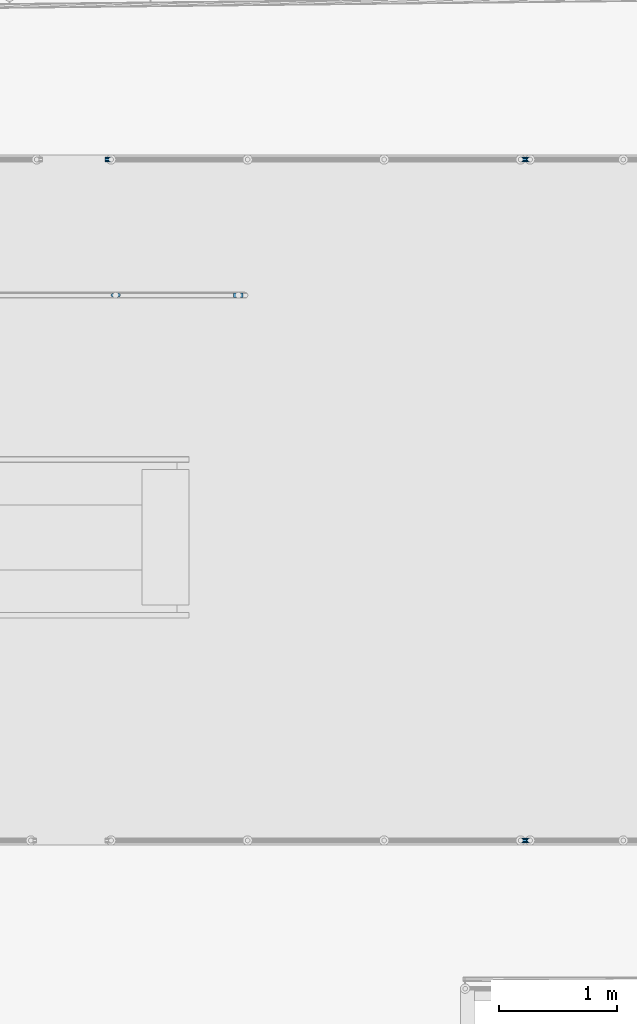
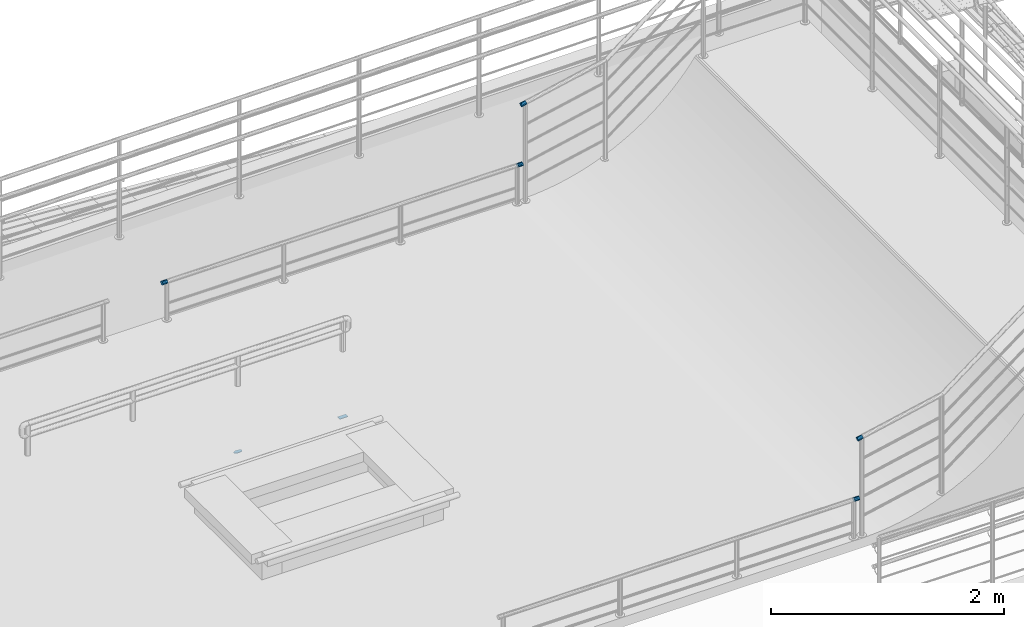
# One storey, part 142 of 237: 7 building element parts, 4 elements without a shape of their own.
"""IFC2X3 building model written with IfcOpenShell, lengths in millimetres."""

from ifc_helpers import new_model, entity, si_unit, converted_unit, derived_unit, money_unit, direction, frame, origin_with_axes, place, context, subcontext, project, spatial, faceted_brep, material, type_object, element, aggregate, save


model = new_model("IFC2X3")

# Units and contexts
model_context = context("Model", 3, precision=0.01, world=origin_with_axes(), true_north=direction((0.0, 1.0)))
body_context = subcontext(model_context, "Body", "Model", "MODEL_VIEW")
ifc_project = project(units=[si_unit("LENGTHUNIT", "METRE", prefix="MILLI"), si_unit("AREAUNIT", "SQUARE_METRE"), si_unit("VOLUMEUNIT", "CUBIC_METRE"), converted_unit("PLANEANGLEUNIT", "DEGREE", entity("IfcPlaneAngleMeasure", 0.0174532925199), si_unit("PLANEANGLEUNIT", "RADIAN"), dimensions=[0, 0, 0, 0, 0, 0, 0]), money_unit("USD"), converted_unit("TIMEUNIT", "Year", entity("IfcTimeMeasure", 31556926.0), si_unit("TIMEUNIT", "SECOND"), dimensions=[0, 0, 1, 0, 0, 0, 0]), si_unit("MASSUNIT", "GRAM", prefix="KILO"), si_unit("THERMODYNAMICTEMPERATUREUNIT", "DEGREE_CELSIUS"), si_unit("LUMINOUSINTENSITYUNIT", "LUMEN"), si_unit("ENERGYUNIT", "JOULE", prefix="MEGA"), derived_unit("THERMALCONDUCTANCEUNIT", [(si_unit("POWERUNIT", "WATT"), 1), (si_unit("LENGTHUNIT", "METRE"), -1), (si_unit("THERMODYNAMICTEMPERATUREUNIT", "KELVIN"), -1)]), derived_unit("SPECIFICHEATCAPACITYUNIT", [(si_unit("ENERGYUNIT", "JOULE"), 1), (si_unit("MASSUNIT", "GRAM", prefix="KILO"), -1), (si_unit("THERMODYNAMICTEMPERATUREUNIT", "KELVIN"), -1)]), derived_unit("MASSDENSITYUNIT", [(si_unit("MASSUNIT", "GRAM", prefix="KILO"), 1), (si_unit("VOLUMEUNIT", "CUBIC_METRE"), -1)])], contexts=[model_context])

# Site, building, storey
site_placement = place(None, origin_with_axes())
site = spatial("IfcSite", under=ifc_project, at=site_placement, Name="Local", CompositionType="ELEMENT")
building_placement = place(site_placement, origin_with_axes())
building = spatial("IfcBuilding", under=site, at=building_placement, Name="Construção", CompositionType="ELEMENT")
storey_placement = place(building_placement, origin_with_axes())
storey = spatial("IfcBuildingStorey", under=building, at=storey_placement, Name="Pavimento Térreo", CompositionType="ELEMENT", Elevation=0.0)

# Railing, building element part
railing_type = type_object("IfcRailingType", Name="Tipo de Guarda-Corpo", PredefinedType="NOTDEFINED")
railing_1_placement = place(storey_placement, frame((58062.4440926, 28006.4497128, -1887.10818411), z_axis=(0.0, 0.0, 1.0), x_axis=(1.0, 0.0, 0.0)))
railing_1 = element("IfcRailing", 1, at=railing_1_placement, inside=storey, type_object=railing_type, Name="Guarda-Corpo - 002", PredefinedType="NOTDEFINED")
ifc_material_1 = material(Name="Aço - Inoxidável")
building_element_part_1_placement = place(railing_1_placement, origin_with_axes())
building_element_part_1 = element("IfcBuildingElementPart", 2, at=building_element_part_1_placement, material=ifc_material_1, Name="Aço - Inoxidável", context=body_context, shape_type="Brep", body=[
    faceted_brep([(3510.0, 98.4865411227, 1030.0), (3510.0, 98.182696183, 1033.47296355), (3560.0, 98.182696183, 1033.47296355), (3560.0, 98.4865411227, 1030.0), (3510.0, 98.182696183, 1026.52703645), (3510.0, 97.2803935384, 1023.15959713), (3510.0, 95.8070491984, 1020.0), (3510.0, 93.8074299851, 1017.14424781), (3510.0, 91.3422933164, 1014.67911114), (3510.0, 88.4865411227, 1012.67949192), (3510.0, 85.3269439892, 1011.20614758), (3510.0, 81.9595046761, 1010.30384494), (3510.0, 78.4865411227, 1010.0), (3510.0, 75.0135775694, 1010.30384494), (3510.0, 71.6461382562, 1011.20614758), (3510.0, 68.4865411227, 1012.67949192), (3510.0, 65.630788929, 1014.67911114), (3510.0, 63.1656522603, 1017.14424781), (3510.0, 61.166033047, 1020.0), (3510.0, 59.692688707, 1023.15959713), (3510.0, 58.7903860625, 1026.52703645), (3510.0, 58.4865411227, 1030.0), (3510.0, 58.7903860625, 1033.47296355), (3510.0, 59.692688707, 1036.84040287), (3510.0, 61.166033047, 1040.0), (3510.0, 63.1656522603, 1042.85575219), (3510.0, 65.630788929, 1045.32088886), (3510.0, 68.4865411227, 1047.32050808), (3510.0, 71.6461382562, 1048.79385242), (3510.0, 75.0135775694, 1049.69615506), (3510.0, 78.4865411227, 1050.0), (3510.0, 81.9595046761, 1049.69615506), (3510.0, 85.3269439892, 1048.79385242), (3510.0, 88.4865411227, 1047.32050808), (3510.0, 91.3422933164, 1045.32088886), (3510.0, 93.8074299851, 1042.85575219), (3510.0, 95.8070491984, 1040.0), (3510.0, 97.2803935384, 1036.84040287), (3560.0, 97.2803935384, 1036.84040287), (3560.0, 95.8070491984, 1040.0), (3560.0, 93.8074299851, 1042.85575219), (3560.0, 91.3422933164, 1045.32088886), (3560.0, 88.4865411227, 1047.32050808), (3560.0, 85.3269439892, 1048.79385242), (3560.0, 81.9595046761, 1049.69615506), (3560.0, 78.4865411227, 1050.0), (3560.0, 75.0135775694, 1049.69615506), (3560.0, 71.6461382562, 1048.79385242), (3560.0, 68.4865411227, 1047.32050808), (3560.0, 65.630788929, 1045.32088886), (3560.0, 63.1656522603, 1042.85575219), (3560.0, 61.166033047, 1040.0), (3560.0, 59.692688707, 1036.84040287), (3560.0, 58.7903860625, 1033.47296355), (3560.0, 58.4865411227, 1030.0), (3560.0, 58.7903860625, 1026.52703645), (3560.0, 59.692688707, 1023.15959713), (3560.0, 61.166033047, 1020.0), (3560.0, 63.1656522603, 1017.14424781), (3560.0, 65.630788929, 1014.67911114), (3560.0, 68.4865411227, 1012.67949192), (3560.0, 71.6461382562, 1011.20614758), (3560.0, 75.0135775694, 1010.30384494), (3560.0, 78.4865411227, 1010.0), (3560.0, 81.9595046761, 1010.30384494), (3560.0, 85.3269439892, 1011.20614758), (3560.0, 88.4865411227, 1012.67949192), (3560.0, 91.3422933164, 1014.67911114), (3560.0, 93.8074299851, 1017.14424781), (3560.0, 95.8070491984, 1020.0), (3560.0, 97.2803935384, 1023.15959713), (3560.0, 98.182696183, 1026.52703645)], [[[0, 1, 2, 3]], [[0, 4, 5, 6, 7, 8, 9, 10, 11, 12, 13, 14, 15, 16, 17, 18, 19, 20, 21, 22, 23, 24, 25, 26, 27, 28, 29, 30, 31, 32, 33, 34, 35, 36, 37, 1]], [[1, 37, 38, 2]], [[3, 2, 38, 39, 40, 41, 42, 43, 44, 45, 46, 47, 48, 49, 50, 51, 52, 53, 54, 55, 56, 57, 58, 59, 60, 61, 62, 63, 64, 65, 66, 67, 68, 69, 70, 71]], [[4, 0, 3, 71]], [[5, 4, 71, 70]], [[6, 5, 70, 69]], [[7, 6, 69, 68]], [[8, 7, 68, 67]], [[9, 8, 67, 66]], [[10, 9, 66, 65]], [[11, 10, 65, 64]], [[12, 11, 64, 63]], [[13, 12, 63, 62]], [[14, 13, 62, 61]], [[15, 14, 61, 60]], [[16, 15, 60, 59]], [[17, 16, 59, 58]], [[18, 17, 58, 57]], [[19, 18, 57, 56]], [[20, 19, 56, 55]], [[21, 20, 55, 54]], [[22, 21, 54, 53]], [[23, 22, 53, 52]], [[24, 23, 52, 51]], [[25, 24, 51, 50]], [[26, 25, 50, 49]], [[27, 26, 49, 48]], [[28, 27, 48, 47]], [[29, 28, 47, 46]], [[30, 29, 46, 45]], [[31, 30, 45, 44]], [[32, 31, 44, 43]], [[33, 32, 43, 42]], [[34, 33, 42, 41]], [[35, 34, 41, 40]], [[36, 35, 40, 39]], [[37, 36, 39, 38]]]),
])
aggregate(railing_1, [building_element_part_1])

# Railing, building element parts
railing_2_placement = place(storey_placement, frame((61612.4440926, 28006.4497128, -1265.99547451), z_axis=(0.0, 0.0, 1.0), x_axis=(-1.0, 0.0, 0.0)))
railing_2 = element("IfcRailing", 3, at=railing_2_placement, inside=storey, type_object=railing_type, Name="Guarda-Corpo - 001", PredefinedType="NOTDEFINED")
building_element_part_2_placement = place(railing_2_placement, origin_with_axes())
building_element_part_2 = element("IfcBuildingElementPart", 4, at=building_element_part_2_placement, material=ifc_material_1, Name="Aço - Inoxidável", context=body_context, shape_type="Brep", body=[
    faceted_brep([(-44.1296564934, -58.4865411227, 1038.87221486), (-43.4125491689, -58.7903860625, 1042.27033683), (5.50996208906, -58.7903860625, 1031.9461956), (4.79285476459, -58.4865411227, 1028.54807363), (-44.8467638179, -58.7903860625, 1035.47409289), (-45.5420821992, -59.692688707, 1032.17922114), (-46.1944847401, -61.166033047, 1029.08771261), (-46.7841485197, -63.1656522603, 1026.29350123), (-47.2931569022, -65.630788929, 1023.8814877), (-47.7060439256, -68.4865411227, 1021.92495983), (-48.0102642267, -71.6461382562, 1020.48336573), (-48.1965742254, -75.0135775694, 1019.60050751), (-48.2593129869, -78.4865411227, 1019.30321036), (-48.1965742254, -81.9595046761, 1019.60050751), (-48.0102642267, -85.3269439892, 1020.48336573), (-47.7060439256, -88.4865411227, 1021.92495983), (-47.2931569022, -91.3422933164, 1023.8814877), (-46.7841485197, -93.8074299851, 1026.29350123), (-46.1944847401, -95.8070491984, 1029.08771261), (-45.5420821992, -97.2803935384, 1032.17922114), (-44.8467638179, -98.182696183, 1035.47409289), (-44.1296564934, -98.4865411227, 1038.87221486), (-43.4125491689, -98.182696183, 1042.27033683), (-42.7172307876, -97.2803935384, 1045.56520859), (-42.0648282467, -95.8070491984, 1048.65671711), (-41.4751644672, -93.8074299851, 1051.45092849), (-40.9661560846, -91.3422933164, 1053.86294202), (-40.5532690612, -88.4865411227, 1055.81946989), (-40.2490487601, -85.3269439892, 1057.26106399), (-40.0627387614, -81.9595046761, 1058.14392221), (-40.0, -78.4865411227, 1058.44121936), (-40.0627387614, -75.0135775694, 1058.14392221), (-40.2490487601, -71.6461382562, 1057.26106399), (-40.5532690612, -68.4865411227, 1055.81946989), (-40.9661560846, -65.630788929, 1053.86294202), (-41.4751644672, -63.1656522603, 1051.45092849), (-42.0648282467, -61.166033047, 1048.65671711), (-42.7172307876, -59.692688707, 1045.56520859), (6.20528047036, -59.692688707, 1035.24106735), (6.85768301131, -61.166033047, 1038.33257588), (7.44734679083, -63.1656522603, 1041.12678726), (7.95635517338, -65.630788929, 1043.53880078), (8.36924219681, -68.4865411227, 1045.49532865), (8.67346249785, -71.6461382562, 1046.93692275), (8.85977249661, -75.0135775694, 1047.81978098), (8.92251125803, -78.4865411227, 1048.11707813), (8.85977249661, -81.9595046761, 1047.81978098), (8.67346249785, -85.3269439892, 1046.93692275), (8.36924219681, -88.4865411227, 1045.49532865), (7.95635517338, -91.3422933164, 1043.53880078), (7.44734679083, -93.8074299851, 1041.12678726), (6.85768301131, -95.8070491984, 1038.33257588), (6.20528047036, -97.2803935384, 1035.24106735), (5.50996208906, -98.182696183, 1031.9461956), (4.79285476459, -98.4865411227, 1028.54807363), (4.07574744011, -98.182696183, 1025.14995166), (3.38042905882, -97.2803935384, 1021.8550799), (2.72802651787, -95.8070491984, 1018.76357138), (2.13836273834, -93.8074299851, 1015.96936), (1.6293543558, -91.3422933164, 1013.55734647), (1.21646733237, -88.4865411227, 1011.6008186), (0.912247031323, -85.3269439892, 1010.1592245), (0.72593703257, -81.9595046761, 1009.27636627), (0.663198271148, -78.4865411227, 1008.97906912), (0.72593703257, -75.0135775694, 1009.27636627), (0.912247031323, -71.6461382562, 1010.1592245), (1.21646733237, -68.4865411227, 1011.6008186), (1.6293543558, -65.630788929, 1013.55734647), (2.13836273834, -63.1656522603, 1015.96936), (2.72802651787, -61.166033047, 1018.76357138), (3.38042905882, -59.692688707, 1021.8550799), (4.07574744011, -58.7903860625, 1025.14995166)], [[[0, 1, 2, 3]], [[0, 4, 5, 6, 7, 8, 9, 10, 11, 12, 13, 14, 15, 16, 17, 18, 19, 20, 21, 22, 23, 24, 25, 26, 27, 28, 29, 30, 31, 32, 33, 34, 35, 36, 37, 1]], [[1, 37, 38, 2]], [[3, 2, 38, 39, 40, 41, 42, 43, 44, 45, 46, 47, 48, 49, 50, 51, 52, 53, 54, 55, 56, 57, 58, 59, 60, 61, 62, 63, 64, 65, 66, 67, 68, 69, 70, 71]], [[4, 0, 3, 71]], [[5, 4, 71, 70]], [[6, 5, 70, 69]], [[7, 6, 69, 68]], [[8, 7, 68, 67]], [[9, 8, 67, 66]], [[10, 9, 66, 65]], [[11, 10, 65, 64]], [[12, 11, 64, 63]], [[13, 12, 63, 62]], [[14, 13, 62, 61]], [[15, 14, 61, 60]], [[16, 15, 60, 59]], [[17, 16, 59, 58]], [[18, 17, 58, 57]], [[19, 18, 57, 56]], [[20, 19, 56, 55]], [[21, 20, 55, 54]], [[22, 21, 54, 53]], [[23, 22, 53, 52]], [[24, 23, 52, 51]], [[25, 24, 51, 50]], [[26, 25, 50, 49]], [[27, 26, 49, 48]], [[28, 27, 48, 47]], [[29, 28, 47, 46]], [[30, 29, 46, 45]], [[31, 30, 45, 44]], [[32, 31, 44, 43]], [[33, 32, 43, 42]], [[34, 33, 42, 41]], [[35, 34, 41, 40]], [[36, 35, 40, 39]], [[37, 36, 39, 38]]]),
])
building_element_part_3_placement = place(railing_2_placement, origin_with_axes())
building_element_part_3 = element("IfcBuildingElementPart", 5, at=building_element_part_3_placement, material=ifc_material_1, Name="Aço - Inoxidável", context=body_context, shape_type="Brep", body=[
    faceted_brep([(-44.0970189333, -5828.23893489, 1038.87449083), (-43.3799134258, -5828.54318147, 1042.27257724), (5.54207830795, -5828.57057837, 1031.94601082), (4.82497280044, -5828.2663318, 1028.5479244), (-44.8144647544, -5828.5423781, 1035.47640441), (-45.5104516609, -5829.44429112, 1032.18156713), (-46.1638324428, -5830.91726979, 1029.09009095), (-46.7547544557, -5832.9165584, 1026.2959088), (-47.2652628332, -5835.38140956, 1023.88392051), (-47.6798460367, -5838.23693003, 1021.92741311), (-47.9859071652, -5841.39635626, 1020.48583409), (-48.1741467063, -5844.76369069, 1019.6029851), (-48.2388450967, -5848.23661855, 1019.30569106), (-48.1780365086, -5851.70961671, 1019.6029851), (-47.9935685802, -5855.07715985, 1020.48583409), (-47.6910462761, -5858.2369269, 1021.92741311), (-47.2796615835, -5861.09290992, 1023.88392051), (-46.7719142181, -5863.55833132, 1026.2959088), (-46.1832318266, -5865.55828051, 1029.09009095), (-45.5315012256, -5867.03199006, 1032.18156713), (-44.8365249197, -5867.93468204, 1035.47640441), (-44.1194194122, -5868.23892862, 1038.87449083), (-43.4019735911, -5867.93548541, 1042.27257724), (-42.7059866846, -5867.03357238, 1045.56741453), (-42.0526059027, -5865.56059371, 1048.65889071), (-41.4616838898, -5863.56130511, 1051.45307285), (-40.9511755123, -5861.09645395, 1053.86506114), (-40.5365923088, -5858.24093348, 1055.82156854), (-40.2305311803, -5855.08150725, 1057.26314756), (-40.0422916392, -5851.71417282, 1058.14599655), (-39.9775932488, -5848.24124495, 1058.44329059), (-40.0384018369, -5844.7682468, 1058.14599655), (-40.2228697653, -5841.40070366, 1057.26314756), (-40.5253920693, -5838.24093661, 1055.82156854), (-40.936776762, -5835.38495359, 1053.86506114), (-41.4445241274, -5832.91953219, 1051.45307285), (-42.0332065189, -5830.919583, 1048.65889071), (-42.6849371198, -5829.44587345, 1045.56741453), (6.23705461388, -5829.47327035, 1035.2408481), (6.88878521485, -5830.9469799, 1038.33232428), (7.47746760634, -5832.9469291, 1041.12650642), (7.98521497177, -5835.4123505, 1043.53849471), (8.39659966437, -5838.26833352, 1045.49500211), (8.69912196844, -5841.42810056, 1046.93658113), (8.88358989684, -5844.79564371, 1047.81943012), (8.94439848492, -5848.26864186, 1048.11672416), (8.8797000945, -5851.74156973, 1047.81943012), (8.69146055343, -5855.10890415, 1046.93658113), (8.38539942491, -5858.26833038, 1045.49500211), (7.97081622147, -5861.12385085, 1043.53849471), (7.46030784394, -5863.58870202, 1041.12650642), (6.86938583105, -5865.58799062, 1038.33232428), (6.21600504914, -5867.06096929, 1035.2408481), (5.52001814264, -5867.96288231, 1031.94601082), (4.80257232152, -5868.26632552, 1028.5479244), (4.085466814, -5867.96207895, 1025.14983798), (3.39049050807, -5867.05938697, 1021.8550007), (2.73875990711, -5865.58567742, 1018.76352452), (2.15007751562, -5863.58572822, 1015.96934237), (1.64233015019, -5861.12030682, 1013.55735408), (1.23094545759, -5858.2643238, 1011.60084668), (0.928423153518, -5855.10455676, 1010.15926766), (0.743955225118, -5851.73701361, 1009.27641867), (0.683146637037, -5848.26401546, 1008.97912464), (0.747845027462, -5844.79108759, 1009.27641867), (0.936084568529, -5841.42375317, 1010.15926766), (1.24214569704, -5838.26432694, 1011.60084668), (1.65672890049, -5835.40880647, 1013.55735408), (2.16723727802, -5832.9439553, 1015.96934237), (2.75815929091, -5830.9446667, 1018.76352452), (3.41154007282, -5829.47168803, 1021.8550007), (4.10752697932, -5828.56977501, 1025.14983798)], [[[0, 1, 2, 3]], [[0, 4, 5, 6, 7, 8, 9, 10, 11, 12, 13, 14, 15, 16, 17, 18, 19, 20, 21, 22, 23, 24, 25, 26, 27, 28, 29, 30, 31, 32, 33, 34, 35, 36, 37, 1]], [[1, 37, 38, 2]], [[3, 2, 38, 39, 40, 41, 42, 43, 44, 45, 46, 47, 48, 49, 50, 51, 52, 53, 54, 55, 56, 57, 58, 59, 60, 61, 62, 63, 64, 65, 66, 67, 68, 69, 70, 71]], [[4, 0, 3, 71]], [[5, 4, 71, 70]], [[6, 5, 70, 69]], [[7, 6, 69, 68]], [[8, 7, 68, 67]], [[9, 8, 67, 66]], [[10, 9, 66, 65]], [[11, 10, 65, 64]], [[12, 11, 64, 63]], [[13, 12, 63, 62]], [[14, 13, 62, 61]], [[15, 14, 61, 60]], [[16, 15, 60, 59]], [[17, 16, 59, 58]], [[18, 17, 58, 57]], [[19, 18, 57, 56]], [[20, 19, 56, 55]], [[21, 20, 55, 54]], [[22, 21, 54, 53]], [[23, 22, 53, 52]], [[24, 23, 52, 51]], [[25, 24, 51, 50]], [[26, 25, 50, 49]], [[27, 26, 49, 48]], [[28, 27, 48, 47]], [[29, 28, 47, 46]], [[30, 29, 46, 45]], [[31, 30, 45, 44]], [[32, 31, 44, 43]], [[33, 32, 43, 42]], [[34, 33, 42, 41]], [[35, 34, 41, 40]], [[36, 35, 40, 39]], [[37, 36, 39, 38]]]),
])
aggregate(railing_2, [building_element_part_2, building_element_part_3])

railing_3_placement = place(storey_placement, frame((61612.4440926, 33894.7133519, -1887.10818411), z_axis=(0.0, 0.0, 1.0), x_axis=(-1.0, 0.0, 0.0)))
railing_3 = element("IfcRailing", 6, at=railing_3_placement, inside=storey, type_object=railing_type, Name="Guarda-Corpo - 002", PredefinedType="NOTDEFINED")
building_element_part_4_placement = place(railing_3_placement, origin_with_axes())
building_element_part_4 = element("IfcBuildingElementPart", 7, at=building_element_part_4_placement, material=ifc_material_1, Name="Aço - Inoxidável", context=body_context, shape_type="Brep", body=[
    faceted_brep([(40.0, 20.0, 1030.0), (40.0, 20.3038449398, 1033.47296355), (-10.0, 20.3038449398, 1033.47296355), (-10.0, 20.0, 1030.0), (40.0, 20.3038449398, 1026.52703645), (40.0, 21.2061475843, 1023.15959713), (40.0, 22.6794919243, 1020.0), (40.0, 24.6791111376, 1017.14424781), (40.0, 27.1442478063, 1014.67911114), (40.0, 30.0, 1012.67949192), (40.0, 33.1595971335, 1011.20614758), (40.0, 36.5270364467, 1010.30384494), (40.0, 40.0, 1010.0), (40.0, 43.4729635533, 1010.30384494), (40.0, 46.8404028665, 1011.20614758), (40.0, 50.0, 1012.67949192), (40.0, 52.8557521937, 1014.67911114), (40.0, 55.3208888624, 1017.14424781), (40.0, 57.3205080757, 1020.0), (40.0, 58.7938524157, 1023.15959713), (40.0, 59.6961550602, 1026.52703645), (40.0, 60.0, 1030.0), (40.0, 59.6961550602, 1033.47296355), (40.0, 58.7938524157, 1036.84040287), (40.0, 57.3205080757, 1040.0), (40.0, 55.3208888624, 1042.85575219), (40.0, 52.8557521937, 1045.32088886), (40.0, 50.0, 1047.32050808), (40.0, 46.8404028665, 1048.79385242), (40.0, 43.4729635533, 1049.69615506), (40.0, 40.0, 1050.0), (40.0, 36.5270364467, 1049.69615506), (40.0, 33.1595971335, 1048.79385242), (40.0, 30.0, 1047.32050808), (40.0, 27.1442478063, 1045.32088886), (40.0, 24.6791111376, 1042.85575219), (40.0, 22.6794919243, 1040.0), (40.0, 21.2061475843, 1036.84040287), (-10.0, 21.2061475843, 1036.84040287), (-10.0, 22.6794919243, 1040.0), (-10.0, 24.6791111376, 1042.85575219), (-10.0, 27.1442478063, 1045.32088886), (-10.0, 30.0, 1047.32050808), (-10.0, 33.1595971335, 1048.79385242), (-10.0, 36.5270364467, 1049.69615506), (-10.0, 40.0, 1050.0), (-10.0, 43.4729635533, 1049.69615506), (-10.0, 46.8404028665, 1048.79385242), (-10.0, 50.0, 1047.32050808), (-10.0, 52.8557521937, 1045.32088886), (-10.0, 55.3208888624, 1042.85575219), (-10.0, 57.3205080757, 1040.0), (-10.0, 58.7938524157, 1036.84040287), (-10.0, 59.6961550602, 1033.47296355), (-10.0, 60.0, 1030.0), (-10.0, 59.6961550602, 1026.52703645), (-10.0, 58.7938524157, 1023.15959713), (-10.0, 57.3205080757, 1020.0), (-10.0, 55.3208888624, 1017.14424781), (-10.0, 52.8557521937, 1014.67911114), (-10.0, 50.0, 1012.67949192), (-10.0, 46.8404028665, 1011.20614758), (-10.0, 43.4729635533, 1010.30384494), (-10.0, 40.0, 1010.0), (-10.0, 36.5270364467, 1010.30384494), (-10.0, 33.1595971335, 1011.20614758), (-10.0, 30.0, 1012.67949192), (-10.0, 27.1442478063, 1014.67911114), (-10.0, 24.6791111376, 1017.14424781), (-10.0, 22.6794919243, 1020.0), (-10.0, 21.2061475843, 1023.15959713), (-10.0, 20.3038449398, 1026.52703645)], [[[0, 1, 2, 3]], [[0, 4, 5, 6, 7, 8, 9, 10, 11, 12, 13, 14, 15, 16, 17, 18, 19, 20, 21, 22, 23, 24, 25, 26, 27, 28, 29, 30, 31, 32, 33, 34, 35, 36, 37, 1]], [[1, 37, 38, 2]], [[3, 2, 38, 39, 40, 41, 42, 43, 44, 45, 46, 47, 48, 49, 50, 51, 52, 53, 54, 55, 56, 57, 58, 59, 60, 61, 62, 63, 64, 65, 66, 67, 68, 69, 70, 71]], [[4, 0, 3, 71]], [[5, 4, 71, 70]], [[6, 5, 70, 69]], [[7, 6, 69, 68]], [[8, 7, 68, 67]], [[9, 8, 67, 66]], [[10, 9, 66, 65]], [[11, 10, 65, 64]], [[12, 11, 64, 63]], [[13, 12, 63, 62]], [[14, 13, 62, 61]], [[15, 14, 61, 60]], [[16, 15, 60, 59]], [[17, 16, 59, 58]], [[18, 17, 58, 57]], [[19, 18, 57, 56]], [[20, 19, 56, 55]], [[21, 20, 55, 54]], [[22, 21, 54, 53]], [[23, 22, 53, 52]], [[24, 23, 52, 51]], [[25, 24, 51, 50]], [[26, 25, 50, 49]], [[27, 26, 49, 48]], [[28, 27, 48, 47]], [[29, 28, 47, 46]], [[30, 29, 46, 45]], [[31, 30, 45, 44]], [[32, 31, 44, 43]], [[33, 32, 43, 42]], [[34, 33, 42, 41]], [[35, 34, 41, 40]], [[36, 35, 40, 39]], [[37, 36, 39, 38]]]),
])
building_element_part_5_placement = place(railing_3_placement, origin_with_axes())
building_element_part_5 = element("IfcBuildingElementPart", 8, at=building_element_part_5_placement, material=ifc_material_1, Name="Aço - Inoxidável", context=body_context, shape_type="Brep", body=[
    faceted_brep([(3510.0, 60.0, 1030.0), (3510.0, 59.6961550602, 1033.47296355), (3560.0, 59.6961550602, 1033.47296355), (3560.0, 60.0, 1030.0), (3510.0, 59.6961550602, 1026.52703645), (3510.0, 58.7938524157, 1023.15959713), (3510.0, 57.3205080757, 1020.0), (3510.0, 55.3208888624, 1017.14424781), (3510.0, 52.8557521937, 1014.67911114), (3510.0, 50.0, 1012.67949192), (3510.0, 46.8404028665, 1011.20614758), (3510.0, 43.4729635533, 1010.30384494), (3510.0, 40.0, 1010.0), (3510.0, 36.5270364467, 1010.30384494), (3510.0, 33.1595971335, 1011.20614758), (3510.0, 30.0, 1012.67949192), (3510.0, 27.1442478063, 1014.67911114), (3510.0, 24.6791111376, 1017.14424781), (3510.0, 22.6794919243, 1020.0), (3510.0, 21.2061475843, 1023.15959713), (3510.0, 20.3038449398, 1026.52703645), (3510.0, 20.0, 1030.0), (3510.0, 20.3038449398, 1033.47296355), (3510.0, 21.2061475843, 1036.84040287), (3510.0, 22.6794919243, 1040.0), (3510.0, 24.6791111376, 1042.85575219), (3510.0, 27.1442478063, 1045.32088886), (3510.0, 30.0, 1047.32050808), (3510.0, 33.1595971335, 1048.79385242), (3510.0, 36.5270364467, 1049.69615506), (3510.0, 40.0, 1050.0), (3510.0, 43.4729635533, 1049.69615506), (3510.0, 46.8404028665, 1048.79385242), (3510.0, 50.0, 1047.32050808), (3510.0, 52.8557521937, 1045.32088886), (3510.0, 55.3208888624, 1042.85575219), (3510.0, 57.3205080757, 1040.0), (3510.0, 58.7938524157, 1036.84040287), (3560.0, 58.7938524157, 1036.84040287), (3560.0, 57.3205080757, 1040.0), (3560.0, 55.3208888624, 1042.85575219), (3560.0, 52.8557521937, 1045.32088886), (3560.0, 50.0, 1047.32050808), (3560.0, 46.8404028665, 1048.79385242), (3560.0, 43.4729635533, 1049.69615506), (3560.0, 40.0, 1050.0), (3560.0, 36.5270364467, 1049.69615506), (3560.0, 33.1595971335, 1048.79385242), (3560.0, 30.0, 1047.32050808), (3560.0, 27.1442478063, 1045.32088886), (3560.0, 24.6791111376, 1042.85575219), (3560.0, 22.6794919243, 1040.0), (3560.0, 21.2061475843, 1036.84040287), (3560.0, 20.3038449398, 1033.47296355), (3560.0, 20.0, 1030.0), (3560.0, 20.3038449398, 1026.52703645), (3560.0, 21.2061475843, 1023.15959713), (3560.0, 22.6794919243, 1020.0), (3560.0, 24.6791111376, 1017.14424781), (3560.0, 27.1442478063, 1014.67911114), (3560.0, 30.0, 1012.67949192), (3560.0, 33.1595971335, 1011.20614758), (3560.0, 36.5270364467, 1010.30384494), (3560.0, 40.0, 1010.0), (3560.0, 43.4729635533, 1010.30384494), (3560.0, 46.8404028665, 1011.20614758), (3560.0, 50.0, 1012.67949192), (3560.0, 52.8557521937, 1014.67911114), (3560.0, 55.3208888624, 1017.14424781), (3560.0, 57.3205080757, 1020.0), (3560.0, 58.7938524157, 1023.15959713), (3560.0, 59.6961550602, 1026.52703645)], [[[0, 1, 2, 3]], [[0, 4, 5, 6, 7, 8, 9, 10, 11, 12, 13, 14, 15, 16, 17, 18, 19, 20, 21, 22, 23, 24, 25, 26, 27, 28, 29, 30, 31, 32, 33, 34, 35, 36, 37, 1]], [[1, 37, 38, 2]], [[3, 2, 38, 39, 40, 41, 42, 43, 44, 45, 46, 47, 48, 49, 50, 51, 52, 53, 54, 55, 56, 57, 58, 59, 60, 61, 62, 63, 64, 65, 66, 67, 68, 69, 70, 71]], [[4, 0, 3, 71]], [[5, 4, 71, 70]], [[6, 5, 70, 69]], [[7, 6, 69, 68]], [[8, 7, 68, 67]], [[9, 8, 67, 66]], [[10, 9, 66, 65]], [[11, 10, 65, 64]], [[12, 11, 64, 63]], [[13, 12, 63, 62]], [[14, 13, 62, 61]], [[15, 14, 61, 60]], [[16, 15, 60, 59]], [[17, 16, 59, 58]], [[18, 17, 58, 57]], [[19, 18, 57, 56]], [[20, 19, 56, 55]], [[21, 20, 55, 54]], [[22, 21, 54, 53]], [[23, 22, 53, 52]], [[24, 23, 52, 51]], [[25, 24, 51, 50]], [[26, 25, 50, 49]], [[27, 26, 49, 48]], [[28, 27, 48, 47]], [[29, 28, 47, 46]], [[30, 29, 46, 45]], [[31, 30, 45, 44]], [[32, 31, 44, 43]], [[33, 32, 43, 42]], [[34, 33, 42, 41]], [[35, 34, 41, 40]], [[36, 35, 40, 39]], [[37, 36, 39, 38]]]),
])
aggregate(railing_3, [building_element_part_4, building_element_part_5])

railing_4_placement = place(storey_placement, frame((56020.9807317, 32685.2089387, -1957.10819431), z_axis=(0.0, 0.0, 1.0), x_axis=(1.0, 0.0, 0.0)))
railing_4 = element("IfcRailing", 9, at=railing_4_placement, inside=storey, type_object=railing_type, Name="Guarda-Corpo - 001", PredefinedType="NOTDEFINED")
ifc_material_2 = material(Name="Alumínio")
building_element_part_6_placement = place(railing_4_placement, origin_with_axes())
building_element_part_6 = element("IfcBuildingElementPart", 10, at=building_element_part_6_placement, material=ifc_material_2, Name="Alumínio", context=body_context, shape_type="Brep", body=[
    faceted_brep([(3120.0, 0.0, 0.0), (3200.0, 0.0, 0.0), (3200.0, 0.0, 5.0), (3120.0, 0.0, 5.0), (3120.0, 40.0, 0.0), (3200.0, 40.0, 0.0), (3200.0, 40.0, 5.0), (3120.0, 40.0, 5.0)], [[[0, 1, 2, 3]], [[0, 4, 5, 1]], [[1, 5, 6, 2]], [[3, 2, 6, 7]], [[4, 0, 3, 7]], [[5, 4, 7, 6]]]),
])
building_element_part_7_placement = place(railing_4_placement, origin_with_axes())
building_element_part_7 = element("IfcBuildingElementPart", 11, at=building_element_part_7_placement, material=ifc_material_2, Name="Alumínio", context=body_context, shape_type="Brep", body=[
    faceted_brep([(2160.0, 20.0, 0.0), (2159.39231012, 23.4729635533, 0.0), (2159.39231012, 23.4729635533, 5.0), (2160.0, 20.0, 5.0), (2159.39231012, 16.5270364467, 0.0), (2157.58770483, 13.1595971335, 0.0), (2154.64101615, 10.0, 0.0), (2150.64177772, 7.14424780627, 0.0), (2145.71150439, 4.67911113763, 0.0), (2140.0, 2.67949192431, 0.0), (2133.68080573, 1.20614758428, 0.0), (2126.94592711, 0.303844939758, 0.0), (2120.0, 0.0, 0.0), (2113.05407289, 0.303844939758, 0.0), (2106.31919427, 1.20614758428, 0.0), (2100.0, 2.67949192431, 0.0), (2094.28849561, 4.67911113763, 0.0), (2089.35822228, 7.14424780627, 0.0), (2085.35898385, 10.0, 0.0), (2082.41229517, 13.1595971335, 0.0), (2080.60768988, 16.5270364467, 0.0), (2080.0, 20.0, 0.0), (2080.60768988, 23.4729635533, 0.0), (2082.41229517, 26.8404028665, 0.0), (2085.35898385, 30.0, 0.0), (2089.35822228, 32.8557521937, 0.0), (2094.28849561, 35.3208888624, 0.0), (2100.0, 37.3205080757, 0.0), (2106.31919427, 38.7938524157, 0.0), (2113.05407289, 39.6961550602, 0.0), (2120.0, 40.0, 0.0), (2126.94592711, 39.6961550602, 0.0), (2133.68080573, 38.7938524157, 0.0), (2140.0, 37.3205080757, 0.0), (2145.71150439, 35.3208888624, 0.0), (2150.64177772, 32.8557521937, 0.0), (2154.64101615, 30.0, 0.0), (2157.58770483, 26.8404028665, 0.0), (2157.58770483, 26.8404028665, 5.0), (2154.64101615, 30.0, 5.0), (2150.64177772, 32.8557521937, 5.0), (2145.71150439, 35.3208888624, 5.0), (2140.0, 37.3205080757, 5.0), (2133.68080573, 38.7938524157, 5.0), (2126.94592711, 39.6961550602, 5.0), (2120.0, 40.0, 5.0), (2113.05407289, 39.6961550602, 5.0), (2106.31919427, 38.7938524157, 5.0), (2100.0, 37.3205080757, 5.0), (2094.28849561, 35.3208888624, 5.0), (2089.35822228, 32.8557521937, 5.0), (2085.35898385, 30.0, 5.0), (2082.41229517, 26.8404028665, 5.0), (2080.60768988, 23.4729635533, 5.0), (2080.0, 20.0, 5.0), (2080.60768988, 16.5270364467, 5.0), (2082.41229517, 13.1595971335, 5.0), (2085.35898385, 10.0, 5.0), (2089.35822228, 7.14424780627, 5.0), (2094.28849561, 4.67911113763, 5.0), (2100.0, 2.67949192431, 5.0), (2106.31919427, 1.20614758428, 5.0), (2113.05407289, 0.303844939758, 5.0), (2120.0, 0.0, 5.0), (2126.94592711, 0.303844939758, 5.0), (2133.68080573, 1.20614758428, 5.0), (2140.0, 2.67949192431, 5.0), (2145.71150439, 4.67911113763, 5.0), (2150.64177772, 7.14424780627, 5.0), (2154.64101615, 10.0, 5.0), (2157.58770483, 13.1595971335, 5.0), (2159.39231012, 16.5270364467, 5.0)], [[[0, 1, 2, 3]], [[0, 4, 5, 6, 7, 8, 9, 10, 11, 12, 13, 14, 15, 16, 17, 18, 19, 20, 21, 22, 23, 24, 25, 26, 27, 28, 29, 30, 31, 32, 33, 34, 35, 36, 37, 1]], [[1, 37, 38, 2]], [[3, 2, 38, 39, 40, 41, 42, 43, 44, 45, 46, 47, 48, 49, 50, 51, 52, 53, 54, 55, 56, 57, 58, 59, 60, 61, 62, 63, 64, 65, 66, 67, 68, 69, 70, 71]], [[4, 0, 3, 71]], [[5, 4, 71, 70]], [[6, 5, 70, 69]], [[7, 6, 69, 68]], [[8, 7, 68, 67]], [[9, 8, 67, 66]], [[10, 9, 66, 65]], [[11, 10, 65, 64]], [[12, 11, 64, 63]], [[13, 12, 63, 62]], [[14, 13, 62, 61]], [[15, 14, 61, 60]], [[16, 15, 60, 59]], [[17, 16, 59, 58]], [[18, 17, 58, 57]], [[19, 18, 57, 56]], [[20, 19, 56, 55]], [[21, 20, 55, 54]], [[22, 21, 54, 53]], [[23, 22, 53, 52]], [[24, 23, 52, 51]], [[25, 24, 51, 50]], [[26, 25, 50, 49]], [[27, 26, 49, 48]], [[28, 27, 48, 47]], [[29, 28, 47, 46]], [[30, 29, 46, 45]], [[31, 30, 45, 44]], [[32, 31, 44, 43]], [[33, 32, 43, 42]], [[34, 33, 42, 41]], [[35, 34, 41, 40]], [[36, 35, 40, 39]], [[37, 36, 39, 38]]]),
])
aggregate(railing_4, [building_element_part_6, building_element_part_7])

save(model, "model.ifc")
